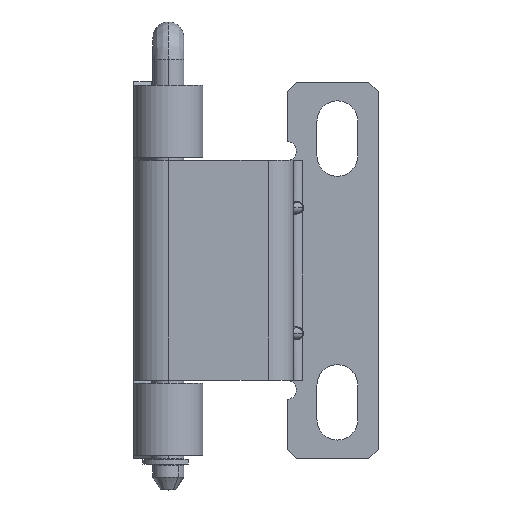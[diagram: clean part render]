
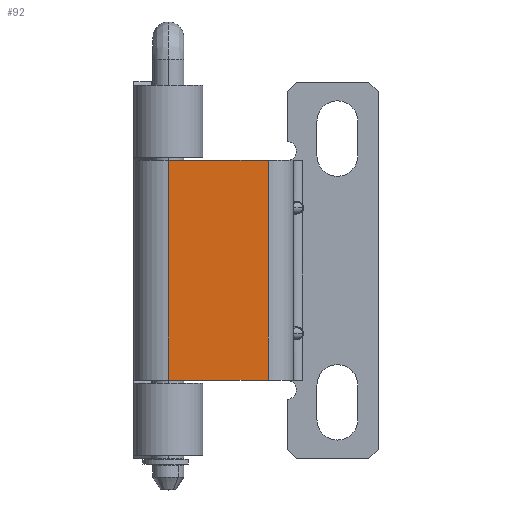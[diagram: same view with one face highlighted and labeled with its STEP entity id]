
A CAD part, top view. The second image highlights one B-rep face of the part: STEP entity #92.
In plain terms, the highlighted planar face has unit normal (0, 0, 1).
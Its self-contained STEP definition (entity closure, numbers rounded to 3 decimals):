
#92=ADVANCED_FACE('',(#211),#1953,.T.);
#211=FACE_OUTER_BOUND('',#336,.T.);
#336=EDGE_LOOP('',(#670,#671,#672,#673));
#670=ORIENTED_EDGE('',*,*,#1123,.T.);
#671=ORIENTED_EDGE('',*,*,#1124,.T.);
#672=ORIENTED_EDGE('',*,*,#1125,.T.);
#673=ORIENTED_EDGE('',*,*,#1122,.F.);
#1122=EDGE_CURVE('',#1764,#1763,#1597,.T.);
#1123=EDGE_CURVE('',#1764,#1765,#1598,.T.);
#1124=EDGE_CURVE('',#1765,#1766,#1599,.T.);
#1125=EDGE_CURVE('',#1766,#1763,#1600,.T.);
#1597=B_SPLINE_CURVE_WITH_KNOTS('',1,(#3779,#3780),.UNSPECIFIED.,.F.,.F.,
(2,2),(0.,35.),.UNSPECIFIED.);
#1598=B_SPLINE_CURVE_WITH_KNOTS('',1,(#3781,#3782),.UNSPECIFIED.,.F.,.F.,
(2,2),(0.,15.9),.UNSPECIFIED.);
#1599=B_SPLINE_CURVE_WITH_KNOTS('',1,(#3783,#3784),.UNSPECIFIED.,.F.,.F.,
(2,2),(0.,35.),.UNSPECIFIED.);
#1600=B_SPLINE_CURVE_WITH_KNOTS('',1,(#3785,#3786),.UNSPECIFIED.,.F.,.F.,
(2,2),(0.,15.9),.UNSPECIFIED.);
#1763=VERTEX_POINT('',#3661);
#1764=VERTEX_POINT('',#3662);
#1765=VERTEX_POINT('',#3663);
#1766=VERTEX_POINT('',#3664);
#1953=PLANE('',#2170);
#2170=AXIS2_PLACEMENT_3D('',#3181,#2420,$);
#2420=DIRECTION('',(0.,0.,1.));
#3181=CARTESIAN_POINT('',(-9.901,-21.012,23.097));
#3661=CARTESIAN_POINT('',(-8.299,17.5,23.097));
#3662=CARTESIAN_POINT('',(-8.299,-17.5,23.097));
#3663=CARTESIAN_POINT('',(7.601,-17.5,23.097));
#3664=CARTESIAN_POINT('',(7.601,17.5,23.097));
#3779=CARTESIAN_POINT('',(-8.299,-17.5,23.097));
#3780=CARTESIAN_POINT('',(-8.299,17.5,23.097));
#3781=CARTESIAN_POINT('',(-8.299,-17.5,23.097));
#3782=CARTESIAN_POINT('',(7.601,-17.5,23.097));
#3783=CARTESIAN_POINT('',(7.601,-17.5,23.097));
#3784=CARTESIAN_POINT('',(7.601,17.5,23.097));
#3785=CARTESIAN_POINT('',(7.601,17.5,23.097));
#3786=CARTESIAN_POINT('',(-8.299,17.5,23.097));
